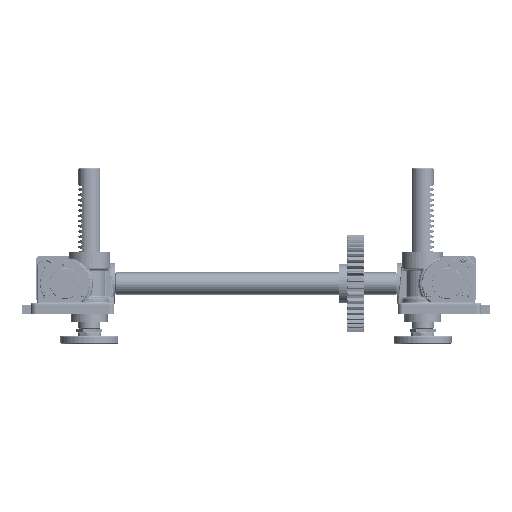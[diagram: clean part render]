
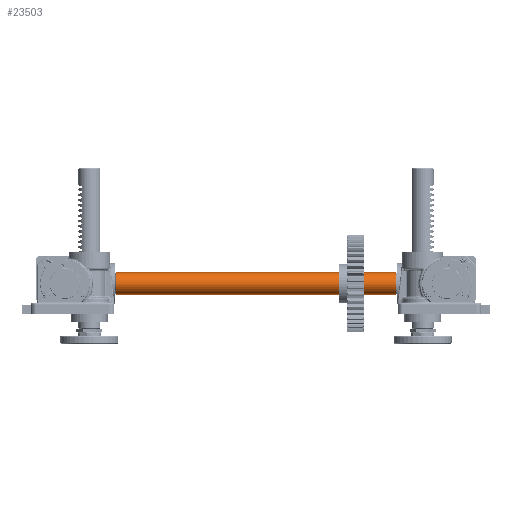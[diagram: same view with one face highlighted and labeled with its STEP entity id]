
A CAD part, front view. The second image highlights one B-rep face of the part: STEP entity #23503.
In plain terms, the highlighted cylindrical face has radius 20 mm (diameter 40 mm), a full revolution.
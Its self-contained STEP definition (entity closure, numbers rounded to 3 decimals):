
#23503=ADVANCED_FACE('',(#54449,#54450),#54451,.T.);
#54449=FACE_OUTER_BOUND('',#97623,.T.);
#54450=FACE_OUTER_BOUND('',#97624,.T.);
#54451=CYLINDRICAL_SURFACE('',#97625,20.0);
#97623=EDGE_LOOP('',(#221909));
#97624=EDGE_LOOP('',(#221910));
#97625=AXIS2_PLACEMENT_3D('',#221911,#221912,#221913);
#221909=ORIENTED_EDGE('',*,*,#261801,.F.);
#221910=ORIENTED_EDGE('',*,*,#261800,.F.);
#221911=CARTESIAN_POINT('',(0.0,0.0,0.0));
#221912=DIRECTION('',(0.0,0.0,1.0));
#221913=DIRECTION('',(1.0,0.0,0.0));
#261800=EDGE_CURVE('',#328283,#328283,#328284,.T.);
#261801=EDGE_CURVE('',#328285,#328285,#328286,.T.);
#328283=VERTEX_POINT('',#441990);
#328284=CIRCLE('',#441991,20.0);
#328285=VERTEX_POINT('',#441992);
#328286=CIRCLE('',#441993,20.0);
#441990=CARTESIAN_POINT('',(20.0,0.,1.0));
#441991=AXIS2_PLACEMENT_3D('',#488392,#488393,#488394);
#441992=CARTESIAN_POINT('',(20.0,0.,505.4));
#441993=AXIS2_PLACEMENT_3D('',#488395,#488396,#488397);
#488392=CARTESIAN_POINT('',(0.0,0.0,1.0));
#488393=DIRECTION('',(0.0,0.0,-1.0));
#488394=DIRECTION('',(-1.0,0.0,0.0));
#488395=CARTESIAN_POINT('',(0.0,0.0,505.4));
#488396=DIRECTION('',(0.0,0.0,1.0));
#488397=DIRECTION('',(-1.0,0.0,0.0));
